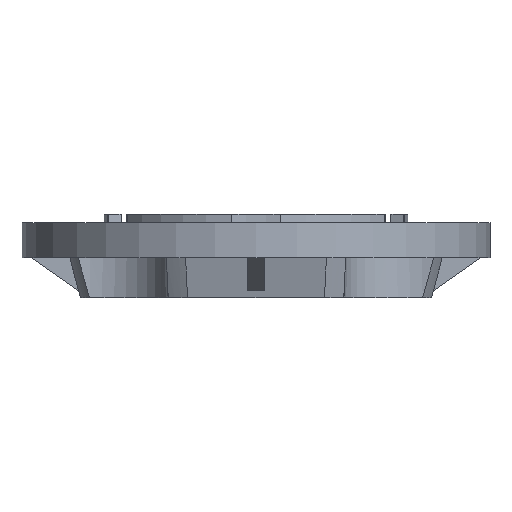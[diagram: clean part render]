
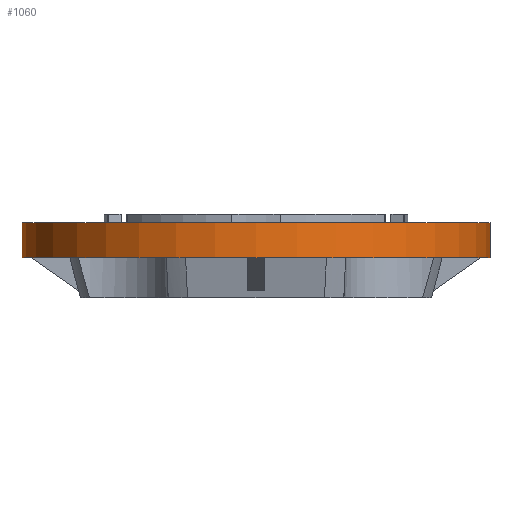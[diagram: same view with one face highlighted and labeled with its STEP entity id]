
A CAD part, front view. The second image highlights one B-rep face of the part: STEP entity #1060.
In plain terms, the highlighted cylindrical face has radius 100 mm (diameter 200 mm), a partial arc.
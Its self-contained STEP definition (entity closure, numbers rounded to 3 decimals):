
#1060=ADVANCED_FACE('',(#1175),#3016,.T.);
#1175=FACE_OUTER_BOUND('',#1309,.T.);
#1309=EDGE_LOOP('',(#1894,#1895,#1896,#1897));
#1894=ORIENTED_EDGE('',*,*,#2225,.T.);
#1895=ORIENTED_EDGE('',*,*,#2070,.T.);
#1896=ORIENTED_EDGE('',*,*,#2068,.T.);
#1897=ORIENTED_EDGE('',*,*,#2223,.F.);
#2068=EDGE_CURVE('',#2864,#2893,#2482,.T.);
#2070=EDGE_CURVE('',#2843,#2864,#2332,.T.);
#2223=EDGE_CURVE('',#2892,#2893,#2421,.T.);
#2225=EDGE_CURVE('',#2892,#2843,#2549,.T.);
#2332=B_SPLINE_CURVE_WITH_KNOTS('',1,(#4517,#4518),.UNSPECIFIED.,.F.,.F.,
(2,2),(1.56,16.56),.UNSPECIFIED.);
#2421=B_SPLINE_CURVE_WITH_KNOTS('',1,(#4903,#4904),.UNSPECIFIED.,.F.,.F.,
(2,2),(1.56,16.56),.UNSPECIFIED.);
#2482=TRIMMED_CURVE($,#2618,(#4512),(#4513),.T.,.CARTESIAN.);
#2549=TRIMMED_CURVE($,#2685,(#4909),(#4910),.T.,.CARTESIAN.);
#2618=CIRCLE('',#3361,100.);
#2685=CIRCLE('',#3428,100.);
#2843=VERTEX_POINT('',#4132);
#2864=VERTEX_POINT('',#4153);
#2892=VERTEX_POINT('',#4181);
#2893=VERTEX_POINT('',#4182);
#3016=CYLINDRICAL_SURFACE('',#3300,100.);
#3300=AXIS2_PLACEMENT_3D('',#3982,#3549,$);
#3361=AXIS2_PLACEMENT_3D($,#4511,#3658,#3659);
#3428=AXIS2_PLACEMENT_3D($,#4908,#3792,#3793);
#3549=DIRECTION('',(1.,0.,0.));
#3658=DIRECTION('',(-1.,0.,0.));
#3659=DIRECTION('',(0.,0.,-1.));
#3792=DIRECTION('',(1.,0.,0.));
#3793=DIRECTION('',(0.,0.,1.));
#3982=CARTESIAN_POINT('',(24.5,0.,0.));
#4132=CARTESIAN_POINT('',(17.,0.,-100.));
#4153=CARTESIAN_POINT('',(32.,0.,-100.));
#4181=CARTESIAN_POINT('',(17.,0.,100.));
#4182=CARTESIAN_POINT('',(32.,0.,100.));
#4511=CARTESIAN_POINT('',(32.,0.,0.));
#4512=CARTESIAN_POINT('',(32.,0.,-100.));
#4513=CARTESIAN_POINT('',(32.,0.,100.));
#4517=CARTESIAN_POINT('',(17.,0.,-100.));
#4518=CARTESIAN_POINT('',(32.,0.,-100.));
#4903=CARTESIAN_POINT('',(17.,0.,100.));
#4904=CARTESIAN_POINT('',(32.,0.,100.));
#4908=CARTESIAN_POINT('',(17.,0.,0.));
#4909=CARTESIAN_POINT('',(17.,0.,100.));
#4910=CARTESIAN_POINT('',(17.,0.,-100.));
